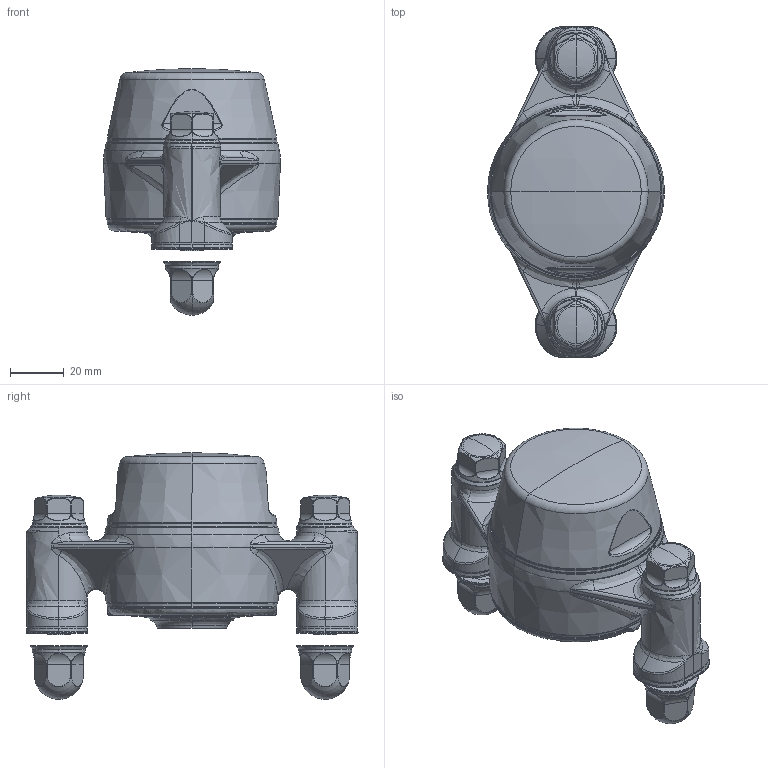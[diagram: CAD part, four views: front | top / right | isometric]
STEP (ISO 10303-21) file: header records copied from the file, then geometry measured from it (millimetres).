
FILE_DESCRIPTION (( 'STEP AP203' ), '1' );
FILE_NAME ('XB2FC52(Blue)-CSB2500(Front)-CL(Blue)-OS(Blue)-BXHM1050-NDXHM10_Shell.step', '2020-09-23T11:32:08', ( '' ), ( '' ), 'SwSTEP 2.0', 'SolidWorks 2019', '' );
FILE_SCHEMA (( 'CONFIG_CONTROL_DESIGN' ));
Length unit declared in the file: millimetre
Products named in the file (1): XB2FC52(Blue)-CSB2500(Front)-CL(Blue)-OS(Blue)-BXHM1050-NDXHM10_Shell
Bounding box: 65.77 x 123.4 x 91.65 mm (x, y, z)
Surface area: 39625.1 mm2 (no closed solid volume)
Topology: 0 solids, 35 shells, 853 faces, 2780 edges, 1892 vertices
Faces by surface type: bspline 352, cylinder 176, torus 124, plane 100, cone 73, sphere 28
Entity records: 50906 total; most frequent: CARTESIAN_POINT 30355, ORIENTED_EDGE 4468, DIRECTION 3361, EDGE_CURVE 2776, VERTEX_POINT 1892, AXIS2_PLACEMENT_3D 1414, B_SPLINE_CURVE_WITH_KNOTS 1265, EDGE_LOOP 914
